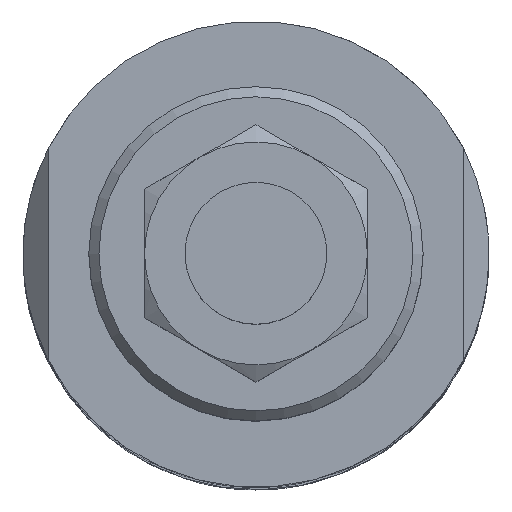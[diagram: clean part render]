
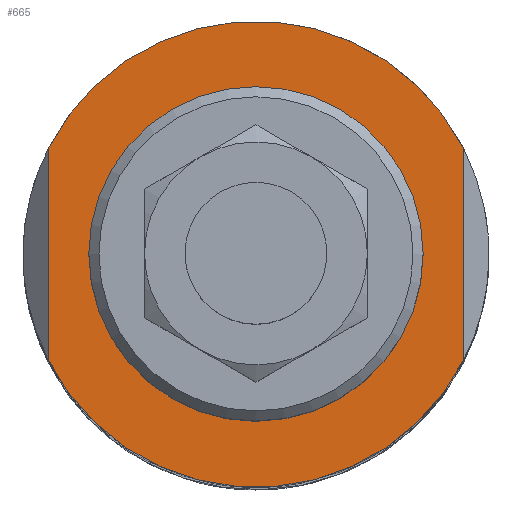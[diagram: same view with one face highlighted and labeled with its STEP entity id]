
A CAD part, top view. The second image highlights one B-rep face of the part: STEP entity #665.
In plain terms, the highlighted planar face has unit normal (0, 0, 1).
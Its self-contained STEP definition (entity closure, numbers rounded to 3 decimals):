
#549=CARTESIAN_POINT('',(-20.5,10.428,188.0));
#550=VERTEX_POINT('',#549);
#558=CARTESIAN_POINT('',(-20.5,-10.428,188.0));
#559=VERTEX_POINT('',#558);
#566=CARTESIAN_POINT('',(-20.5,10.428,188.0));
#567=DIRECTION('',(0.0,-1.0,0.0));
#568=VECTOR('',#567,20.857);
#569=LINE('',#566,#568);
#570=EDGE_CURVE('',#550,#559,#569,.T.);
#605=CARTESIAN_POINT('',(20.5,-10.428,188.));
#606=VERTEX_POINT('',#605);
#614=CARTESIAN_POINT('',(20.5,10.428,188.));
#615=VERTEX_POINT('',#614);
#622=CARTESIAN_POINT('',(20.5,-10.428,188.));
#623=DIRECTION('',(0.0,1.0,0.0));
#624=VECTOR('',#623,20.857);
#625=LINE('',#622,#624);
#626=EDGE_CURVE('',#606,#615,#625,.T.);
#631=CARTESIAN_POINT('',(0.0,0.0,188.0));
#632=DIRECTION('',(0.0,0.0,-1.0));
#633=DIRECTION('',(-1.0,0.0,0.0));
#634=AXIS2_PLACEMENT_3D('',#631,#632,#633);
#635=PLANE('',#634);
#636=ORIENTED_EDGE('',*,*,#570,.T.);
#637=CARTESIAN_POINT('',(0.0,0.0,188.0));
#638=DIRECTION('',(0.0,0.0,-1.0));
#639=DIRECTION('',(-1.0,0.0,0.0));
#640=AXIS2_PLACEMENT_3D('',#637,#638,#639);
#641=CIRCLE('',#640,23.);
#642=EDGE_CURVE('',#606,#559,#641,.T.);
#643=ORIENTED_EDGE('',*,*,#642,.F.);
#644=ORIENTED_EDGE('',*,*,#626,.T.);
#645=CARTESIAN_POINT('',(0.0,0.0,188.0));
#646=DIRECTION('',(0.0,0.0,-1.0));
#647=DIRECTION('',(-1.0,0.0,0.0));
#648=AXIS2_PLACEMENT_3D('',#645,#646,#647);
#649=CIRCLE('',#648,23.);
#650=EDGE_CURVE('',#550,#615,#649,.T.);
#651=ORIENTED_EDGE('',*,*,#650,.F.);
#652=EDGE_LOOP('',(#636,#643,#644,#651));
#653=FACE_OUTER_BOUND('',#652,.T.);
#654=CARTESIAN_POINT('',(16.5,0.,188.0));
#655=VERTEX_POINT('',#654);
#656=CARTESIAN_POINT('',(0.0,0.0,188.0));
#657=DIRECTION('',(0.0,0.0,-1.0));
#658=DIRECTION('',(-1.0,0.0,0.0));
#659=AXIS2_PLACEMENT_3D('',#656,#657,#658);
#660=CIRCLE('',#659,16.5);
#661=EDGE_CURVE('',#655,#655,#660,.T.);
#662=ORIENTED_EDGE('',*,*,#661,.T.);
#663=EDGE_LOOP('',(#662));
#664=FACE_BOUND('',#663,.T.);
#665=ADVANCED_FACE('',(#653,#664),#635,.F.);
